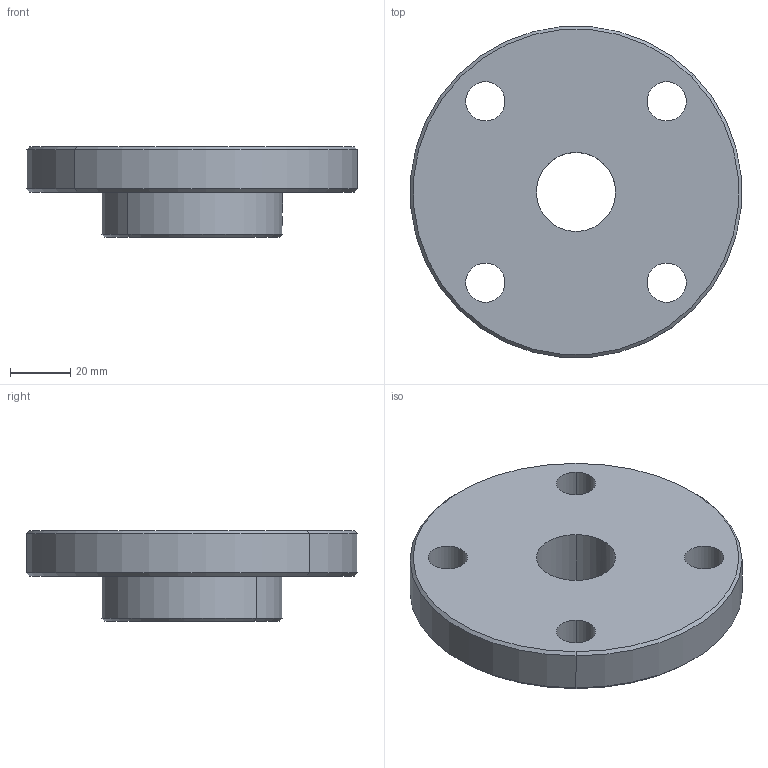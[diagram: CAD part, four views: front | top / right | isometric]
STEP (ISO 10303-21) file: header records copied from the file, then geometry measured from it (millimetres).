
FILE_DESCRIPTION (( 'STEP AP203' ), '1' );
FILE_NAME ('MJ4-FP.STEP', '2024-01-15T15:22:17', ( '' ), ( '' ), 'SwSTEP 2.0', 'SolidWorks 2022', '' );
FILE_SCHEMA (( 'CONFIG_CONTROL_DESIGN' ));
Length unit declared in the file: millimetre
Products named in the file (1): MJ4-FP
Bounding box: 109.58 x 109.58 x 30 mm (x, y, z)
Volume: 159787.2 mm3; surface area: 29564.3 mm2
Topology: 1 solids, 1 shells, 25 faces, 62 edges, 40 vertices
Faces by surface type: cylinder 16, cone 6, plane 3
Entity records: 1027 total; most frequent: CARTESIAN_POINT 308, DIRECTION 142, ORIENTED_EDGE 124, EDGE_CURVE 62, AXIS2_PLACEMENT_3D 60, VERTEX_POINT 40, EDGE_LOOP 38, CIRCLE 34
